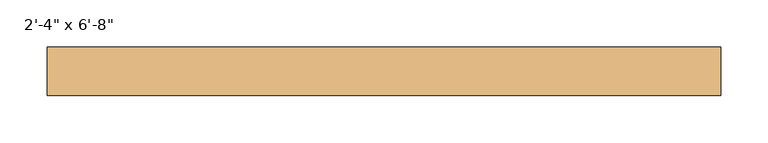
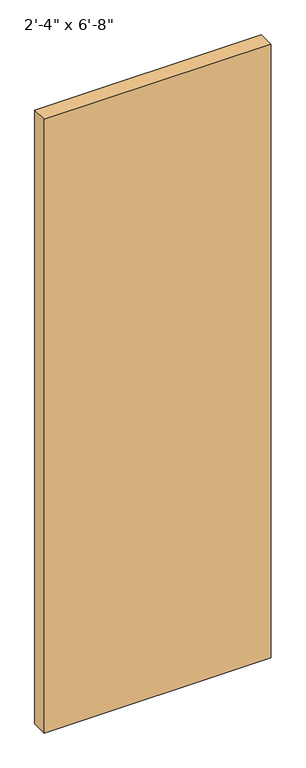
"""IFC4 building model written with IfcOpenShell, lengths in millimetres: door geometry."""

from ifc_helpers import new_model, si_unit, origin, origin_with_axes, place, context, project, spatial, polyline, outline, extrude, source, transform, mapped, element, save


def door_c6f7bf39(model_context):
    return source(origin(), model_context, "Body", "SweptSolid", [
        extrude(outline(polyline([(355.6, 37.9015625), (-355.6, 37.9015625), (-355.6, 88.9), (355.6, 88.9), (355.6, 37.9015625)])), origin_with_axes(), (0.0, 0.0, 1.0), 2032.0),
    ])


if __name__ == "__main__":
    model = new_model("IFC4")
    model_context = context("Model", 3, world=origin())
    ifc_project = project(units=[si_unit("LENGTHUNIT", "METRE", prefix="MILLI")], contexts=[model_context])
    site = spatial("IfcSite", under=ifc_project)
    building = spatial("IfcBuilding", under=site)
    placement = place(None, origin())
    door_shape = door_c6f7bf39(model_context)
    element("IfcDoor", 1, ObjectType="Planitar - Single Door_Flush Panel : 2'-4\" x 6'-8\"", at=placement, inside=building, context=model_context, shape_type="MappedRepresentation", body=[
        mapped(door_shape, transform((0.0, 0.0, 0.0), x_axis=(1.0, 0.0, 0.0), y_axis=(0.0, 1.0, 0.0), z_axis=(0.0, 0.0, 1.0))),
    ])
    save(model, "model.ifc")
